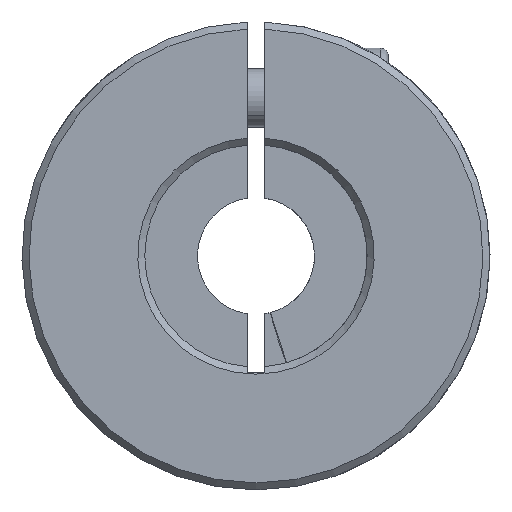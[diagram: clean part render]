
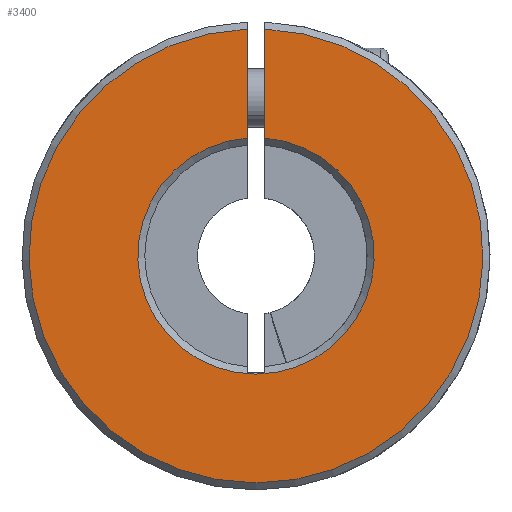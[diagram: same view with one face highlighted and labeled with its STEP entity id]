
A CAD part, front view. The second image highlights one B-rep face of the part: STEP entity #3400.
In plain terms, the highlighted planar face has unit normal (0, -1, 0).
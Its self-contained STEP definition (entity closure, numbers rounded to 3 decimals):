
#257 = EDGE_CURVE ( 'NONE', #5369, #4162, #4489, .T. ) ;
#297 = FACE_OUTER_BOUND ( 'NONE', #5361, .T. ) ;
#337 = AXIS2_PLACEMENT_3D ( 'NONE', #2912, #3739, #3374 ) ;
#434 = ORIENTED_EDGE ( 'NONE', *, *, #3516, .T. ) ;
#1087 = ORIENTED_EDGE ( 'NONE', *, *, #4143, .T. ) ;
#1276 = PLANE ( 'NONE',  #2993 ) ;
#1380 = CARTESIAN_POINT ( 'NONE',  ( 0.75, -25., 10.072 ) ) ;
#1420 = CIRCLE ( 'NONE', #337, 19.4 ) ;
#1600 = CARTESIAN_POINT ( 'NONE',  ( 0.75, -25., -10. ) ) ;
#1819 = CARTESIAN_POINT ( 'NONE',  ( -0.75, -25., 10.072 ) ) ;
#1822 = CIRCLE ( 'NONE', #5244, 10.1 ) ;
#1826 = ORIENTED_EDGE ( 'NONE', *, *, #5776, .T. ) ;
#1856 = CARTESIAN_POINT ( 'NONE',  ( 0.75, -25., 19.385 ) ) ;
#2302 = VERTEX_POINT ( 'NONE', #1819 ) ;
#2387 = DIRECTION ( 'NONE',  ( 0., 0., 1. ) ) ;
#2419 = CARTESIAN_POINT ( 'NONE',  ( -0.75, -25., 19.385 ) ) ;
#2422 = CARTESIAN_POINT ( 'NONE',  ( 0., -25., 0. ) ) ;
#2450 = DIRECTION ( 'NONE',  ( 0., 1., 0. ) ) ;
#2595 = VERTEX_POINT ( 'NONE', #3958 ) ;
#2912 = CARTESIAN_POINT ( 'NONE',  ( 0., -25., 0. ) ) ;
#2993 = AXIS2_PLACEMENT_3D ( 'NONE', #3681, #4593, #4039 ) ;
#3374 = DIRECTION ( 'NONE',  ( 0., 0., 1. ) ) ;
#3400 = ADVANCED_FACE ( 'NONE', ( #297 ), #1276, .F. ) ;
#3411 = DIRECTION ( 'NONE',  ( 0., 0., 1. ) ) ;
#3516 = EDGE_CURVE ( 'NONE', #4702, #5369, #1420, .T. ) ;
#3602 = DIRECTION ( 'NONE',  ( 0., 1., 0. ) ) ;
#3681 = CARTESIAN_POINT ( 'NONE',  ( 0., -25., 0. ) ) ;
#3739 = DIRECTION ( 'NONE',  ( 0., -1., 0. ) ) ;
#3958 = CARTESIAN_POINT ( 'NONE',  ( 0., -25., -10.1 ) ) ;
#4021 = DIRECTION ( 'NONE',  ( 0., 0., 1. ) ) ;
#4039 = DIRECTION ( 'NONE',  ( 0., 0., 1. ) ) ;
#4143 = EDGE_CURVE ( 'NONE', #4162, #2595, #1822, .T. ) ;
#4162 = VERTEX_POINT ( 'NONE', #1380 ) ;
#4391 = CIRCLE ( 'NONE', #4585, 10.1 ) ;
#4406 = ORIENTED_EDGE ( 'NONE', *, *, #4677, .T. ) ;
#4489 = LINE ( 'NONE', #1600, #4920 ) ;
#4585 = AXIS2_PLACEMENT_3D ( 'NONE', #2422, #2450, #3411 ) ;
#4593 = DIRECTION ( 'NONE',  ( 0., 1., 0. ) ) ;
#4677 = EDGE_CURVE ( 'NONE', #2302, #4702, #5684, .T. ) ;
#4702 = VERTEX_POINT ( 'NONE', #2419 ) ;
#4745 = CARTESIAN_POINT ( 'NONE',  ( -0.75, -25., -10. ) ) ;
#4920 = VECTOR ( 'NONE', #4980, 1000. ) ;
#4980 = DIRECTION ( 'NONE',  ( 0., 0., -1. ) ) ;
#5244 = AXIS2_PLACEMENT_3D ( 'NONE', #5464, #3602, #4021 ) ;
#5361 = EDGE_LOOP ( 'NONE', ( #5500, #1087, #1826, #4406, #434 ) ) ;
#5369 = VERTEX_POINT ( 'NONE', #1856 ) ;
#5464 = CARTESIAN_POINT ( 'NONE',  ( 0., -25., 0. ) ) ;
#5500 = ORIENTED_EDGE ( 'NONE', *, *, #257, .T. ) ;
#5684 = LINE ( 'NONE', #4745, #5935 ) ;
#5776 = EDGE_CURVE ( 'NONE', #2595, #2302, #4391, .T. ) ;
#5935 = VECTOR ( 'NONE', #2387, 1000. ) ;
